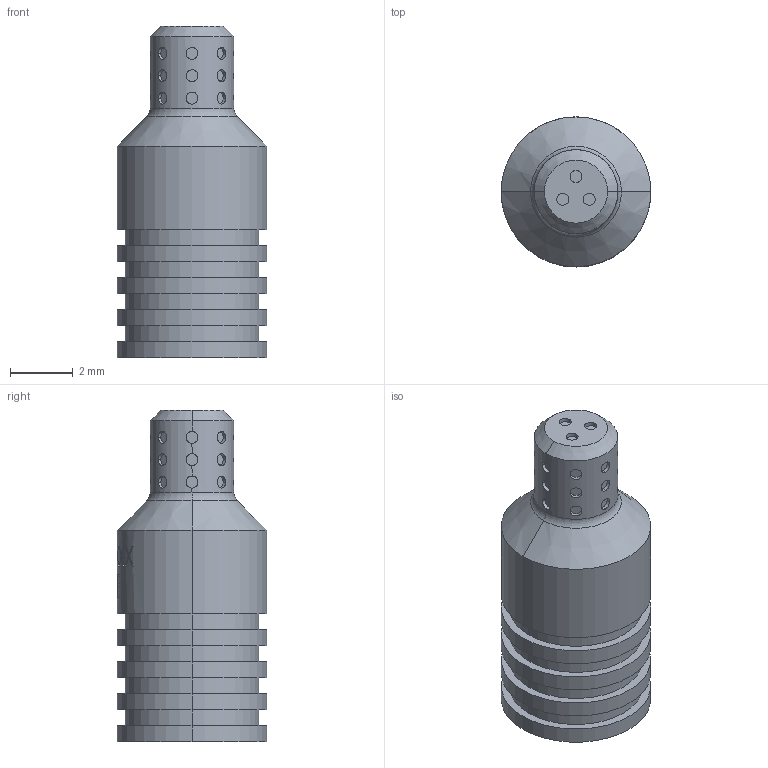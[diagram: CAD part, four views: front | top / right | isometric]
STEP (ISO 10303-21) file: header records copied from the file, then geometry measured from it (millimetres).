
FILE_DESCRIPTION (( 'STEP AP214' ), '1' );
FILE_NAME ('3DFSCA1871150A.STEP', '2021-03-31T18:07:27', ( '' ), ( '' ), 'SwSTEP 2.0', 'SolidWorks 2019', '' );
FILE_SCHEMA (( 'AUTOMOTIVE_DESIGN' ));
Length unit declared in the file: inch
Products named in the file (1): 3DFSCA1871150A
Bounding box: 4.76 x 4.76 x 10.54 mm (x, y, z)
Volume: 123.7 mm3; surface area: 227.9 mm2
Topology: 1 solids, 1 shells, 236 faces, 572 edges, 378 vertices
Faces by surface type: plane 93, cylinder 87, bspline 48, cone 6, torus 2
Entity records: 10054 total; most frequent: CARTESIAN_POINT 2375, ORIENTED_EDGE 1144, DIRECTION 916, EDGE_CURVE 572, AXIS2_PLACEMENT_3D 383, VERTEX_POINT 378, EDGE_LOOP 276, FACE_OUTER_BOUND 236
